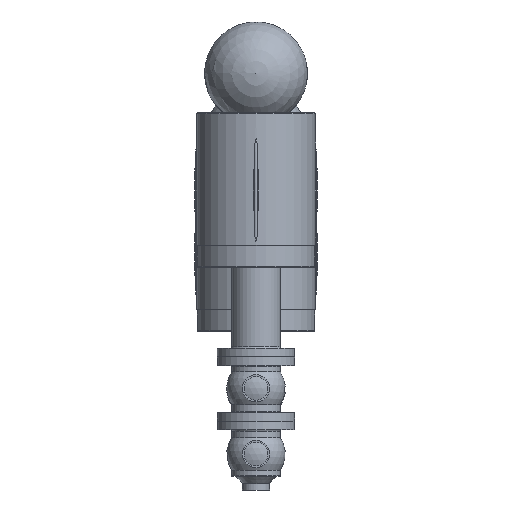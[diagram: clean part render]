
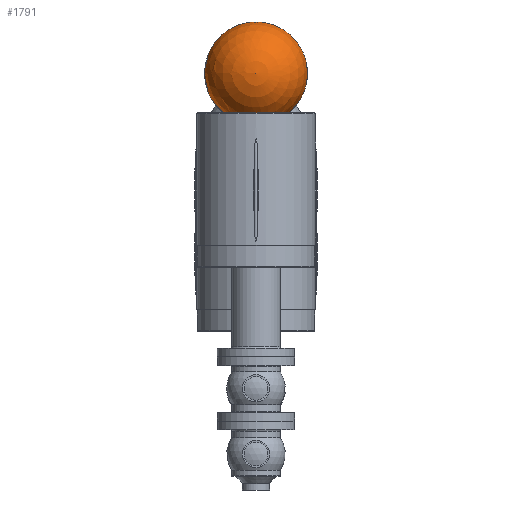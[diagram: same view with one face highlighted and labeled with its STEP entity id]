
A CAD part, front view. The second image highlights one B-rep face of the part: STEP entity #1791.
In plain terms, the highlighted spherical face has radius 72.5 mm.
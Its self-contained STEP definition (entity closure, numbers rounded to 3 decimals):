
#210=SPHERICAL_SURFACE('',#2169,72.5);
#233=FACE_BOUND('',#472,.T.);
#347=FACE_OUTER_BOUND('',#471,.T.);
#471=EDGE_LOOP('',(#1536,#1537));
#472=EDGE_LOOP('',(#1538));
#717=CIRCLE('',#2170,72.5);
#718=CIRCLE('',#2171,46.648);
#900=VERTEX_POINT('',#3637);
#901=VERTEX_POINT('',#3638);
#902=VERTEX_POINT('',#3640);
#1124=EDGE_CURVE('',#900,#901,#717,.T.);
#1125=EDGE_CURVE('',#902,#902,#718,.T.);
#1536=ORIENTED_EDGE('',*,*,#1124,.T.);
#1537=ORIENTED_EDGE('',*,*,#1124,.F.);
#1538=ORIENTED_EDGE('',*,*,#1125,.F.);
#1791=ADVANCED_FACE('',(#347,#233),#210,.T.);
#2169=AXIS2_PLACEMENT_3D('',#3636,#2699,#2700);
#2170=AXIS2_PLACEMENT_3D('',#3639,#2701,#2702);
#2171=AXIS2_PLACEMENT_3D('',#3641,#2703,#2704);
#2699=DIRECTION('center_axis',(0.,0.,1.));
#2700=DIRECTION('ref_axis',(1.,0.,0.));
#2701=DIRECTION('center_axis',(0.,-1.,0.));
#2702=DIRECTION('ref_axis',(-1.,0.,0.));
#2703=DIRECTION('center_axis',(0.,-1.,0.));
#2704=DIRECTION('ref_axis',(1.,0.,0.));
#3636=CARTESIAN_POINT('Origin',(150.,266.5,0.));
#3637=CARTESIAN_POINT('',(150.,266.5,72.5));
#3638=CARTESIAN_POINT('',(150.,266.5,-72.5));
#3639=CARTESIAN_POINT('Origin',(150.,266.5,0.));
#3640=CARTESIAN_POINT('',(196.648,211.,0.));
#3641=CARTESIAN_POINT('Origin',(150.,211.,0.));
